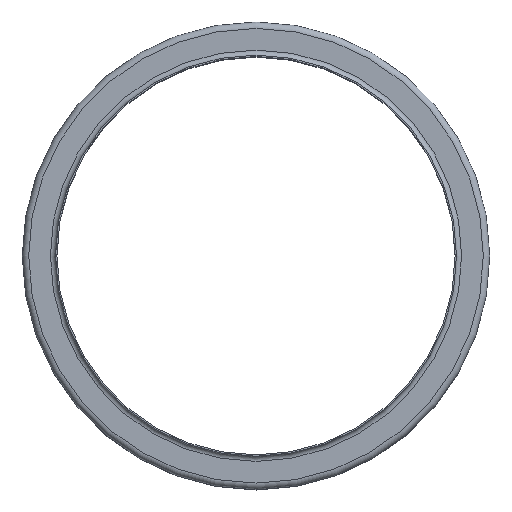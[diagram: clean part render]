
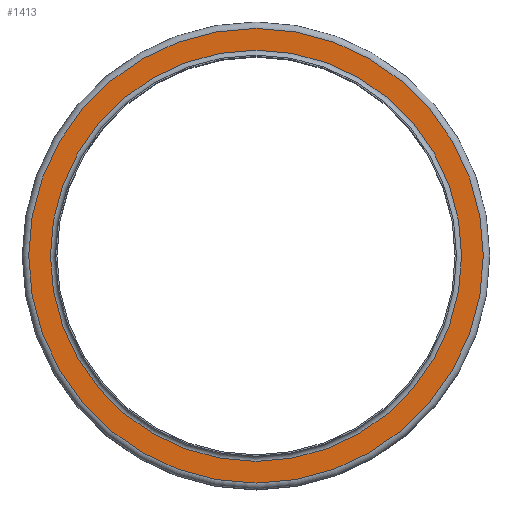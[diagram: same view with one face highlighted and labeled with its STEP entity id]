
A CAD part, top view. The second image highlights one B-rep face of the part: STEP entity #1413.
In plain terms, the highlighted planar face has unit normal (0, 0, 1).
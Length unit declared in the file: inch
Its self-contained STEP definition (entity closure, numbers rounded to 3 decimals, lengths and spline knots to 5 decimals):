
#127=FACE_BOUND('',#381,.T.);
#226=FACE_OUTER_BOUND('',#380,.T.);
#380=EDGE_LOOP('',(#1105));
#381=EDGE_LOOP('',(#1106));
#542=CIRCLE('',#1682,4.4525);
#543=CIRCLE('',#1684,4.9225);
#655=VERTEX_POINT('',#2578);
#656=VERTEX_POINT('',#2582);
#808=EDGE_CURVE('',#655,#655,#542,.T.);
#809=EDGE_CURVE('',#656,#656,#543,.T.);
#1105=ORIENTED_EDGE('',*,*,#809,.F.);
#1106=ORIENTED_EDGE('',*,*,#808,.T.);
#1203=PLANE('',#1683);
#1413=ADVANCED_FACE('',(#226,#127),#1203,.T.);
#1682=AXIS2_PLACEMENT_3D('',#2580,#2178,#2179);
#1683=AXIS2_PLACEMENT_3D('',#2581,#2180,#2181);
#1684=AXIS2_PLACEMENT_3D('',#2583,#2182,#2183);
#2178=DIRECTION('center_axis',(0.,0.,-1.));
#2179=DIRECTION('ref_axis',(1.,0.,0.));
#2180=DIRECTION('center_axis',(0.,0.,1.));
#2181=DIRECTION('ref_axis',(1.,0.,0.));
#2182=DIRECTION('center_axis',(0.,0.,-1.));
#2183=DIRECTION('ref_axis',(1.,0.,0.));
#2578=CARTESIAN_POINT('',(4.4525,0.,-0.11));
#2580=CARTESIAN_POINT('Origin',(0.,0.,-0.11));
#2581=CARTESIAN_POINT('Origin',(0.,4.9225,-0.11));
#2582=CARTESIAN_POINT('',(4.9225,0.,-0.11));
#2583=CARTESIAN_POINT('Origin',(0.,0.,-0.11));
